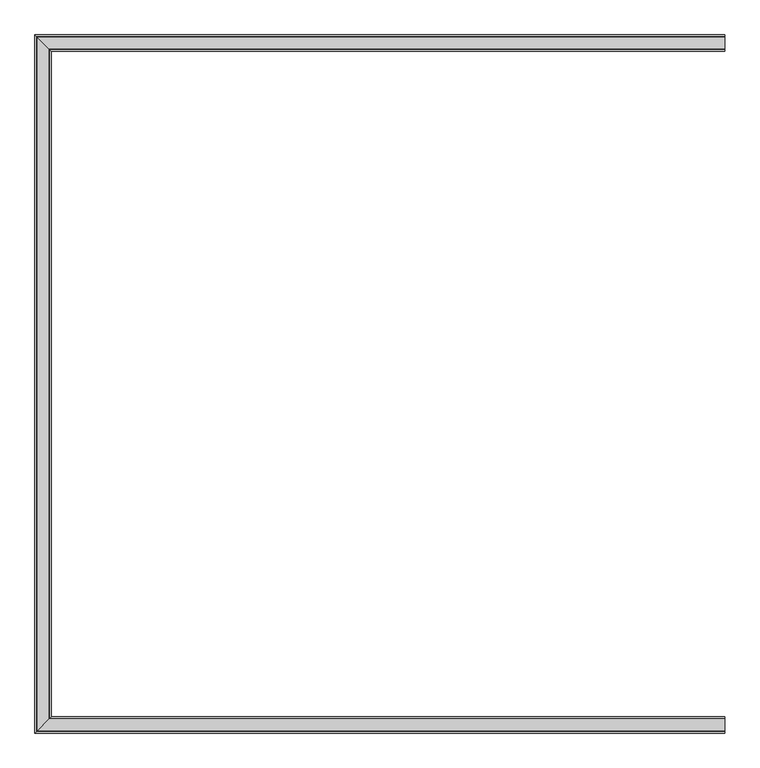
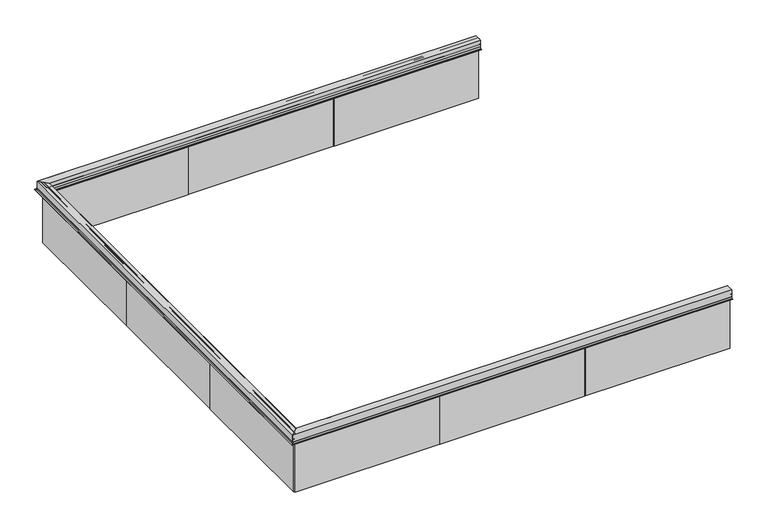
"""IFC4 building model written with IfcOpenShell, lengths in millimetres: railing geometry, Railing - VIVA Railings - Smoke Baffle System - Insert Mount with Surface Trim."""

from ifc_helpers import new_model, si_unit, frame, origin, place, context, project, spatial, polyline, circle_curve, ellipse_curve, outline, extrude, source, transform, mapped, element, save
from ifc_brep_helpers import plane_surface, cylinder_surface, advanced_brep


def railing_280a7c18(model_context):
    return source(origin(), model_context, "Body", "SolidModel", [
        advanced_brep(
        [(4299.0565718, 8380.1322749, -59.6811892), (4299.0565718, 8378.9090912, -59.6811892), (4299.0565718, 8378.9090912, -76.1890625), (4299.0565718, 8368.0590912, -76.1890625), (4299.0565718, 8368.0590912, -77.5890625), (4299.0565718, 8402.9090912, -77.5890625), (4299.0565718, 8402.9090912, -76.1890625), (4299.0565718, 8383.4090912, -76.1890625), (4299.0565718, 8383.4090912, -59.6811892), (4299.0565718, 8382.1313489, -59.6811892), (4299.0565718, 8382.1313489, -39.4359819), (4299.0565718, 8382.1313489, -35.6245431), (4299.0565718, 8382.1313489, -1.9881366), (4299.0565718, 8399.1322749, -1.9881366), (4299.0565718, 8399.1322749, -13.7409517), (4299.0565718, 8409.3629707, -11.8350452), (4299.0565718, 8409.3629707, -1.9881366), (4299.0565718, 8411.8822749, -1.9881366), (4299.0565718, 8414.401579, -1.9881366), (4299.0565718, 8414.401579, -11.8350452), (4299.0565718, 8424.6322749, -13.7409517), (4299.0565718, 8424.6322749, -1.9881366), (4299.0565718, 8441.6332008, -1.9881366), (4299.0565718, 8441.6332008, -35.6245431), (4299.0565718, 8441.6332008, -39.4359819), (4299.0565718, 8441.6332008, -59.6811892), (4299.0565718, 8440.3554585, -59.6811892), (4299.0565718, 8440.3554585, -76.1890625), (4299.0565718, 8420.8554585, -76.1890625), (4299.0565718, 8420.8554585, -77.5890625), (4299.0565718, 8455.7054585, -77.5890625), (4299.0565718, 8455.7054585, -76.1890625), (4299.0565718, 8444.8554585, -76.1890625), (4299.0565718, 8444.8554585, -59.6811892), (4299.0565718, 8443.6322749, -59.6811892), (4299.0565718, 8443.6322749, 0.0109375), (4299.0565718, 8380.1322749, 0.0109375), (673.2065718, 8380.1322749, -59.6811892), (673.2065718, 8380.1322749, 0.0109375), (609.7065718, 8443.6322749, 0.0109375), (609.7065718, 8443.6322749, -59.6811892), (608.4833882, 8444.8554585, -59.6811892), (608.4833882, 8444.8554585, -76.1890625), (597.6333882, 8455.7054585, -76.1890625), (597.6333882, 8455.7054585, -77.5890625), (632.4833882, 8420.8554585, -77.5890625), (632.4833882, 8420.8554585, -76.1890625), (612.9833882, 8440.3554585, -76.1890625), (612.9833882, 8440.3554585, -59.6811892), (611.7056459, 8441.6332008, -59.6811892), (611.7056459, 8441.6332008, -39.4359819), (611.7056459, 8441.6332008, -35.6245431), (611.7056459, 8441.6332008, -1.9881366), (628.7065718, 8424.6322749, -1.9881366), (628.7065718, 8424.6322749, -13.7409517), (638.9372677, 8414.401579, -11.8350452), (638.9372677, 8414.401579, -1.9881366), (641.4565718, 8411.8822749, -1.9881366), (643.975876, 8409.3629707, -1.9881366), (643.975876, 8409.3629707, -11.8350452), (654.2065718, 8399.1322749, -13.7409517), (654.2065718, 8399.1322749, -1.9881366), (671.2074978, 8382.1313489, -1.9881366), (671.2074978, 8382.1313489, -35.6245431), (671.2074978, 8382.1313489, -39.4359819), (671.2074978, 8382.1313489, -59.6811892), (669.9297555, 8383.4090912, -59.6811892), (669.9297555, 8383.4090912, -76.1890625), (650.4297555, 8402.9090912, -76.1890625), (650.4297555, 8402.9090912, -77.5890625), (685.2797555, 8368.0590912, -77.5890625), (685.2797555, 8368.0590912, -76.1890625), (674.4297555, 8378.9090912, -76.1890625), (674.4297555, 8378.9090912, -59.6811892)],
        [
            (0, 1),
            (1, 2),
            (2, 3),
            (3, 4),
            (4, 5),
            (5, 6),
            (6, 7),
            (7, 8),
            (8, 9),
            (9, 10),
            (10, 11, circle_curve(frame((4299.0565718, 8385.1335765, -37.5302625), z_axis=(1.0, 0.0, 0.0), x_axis=(0.0, -0.6169199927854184, -0.7870258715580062)), 3.5560001)),
            (11, 12),
            (12, 13),
            (13, 14),
            (14, 15),
            (15, 16),
            (16, 17),
            (17, 18),
            (18, 19),
            (19, 20),
            (20, 21),
            (21, 22),
            (22, 23),
            (23, 24, circle_curve(frame((4299.0565718, 8438.6309732, -37.5302625), z_axis=(1.0, 0.0, 0.0), x_axis=(0.0, 0.6169199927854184, -0.7870258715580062)), 3.5560001)),
            (24, 25),
            (25, 26),
            (26, 27),
            (27, 28),
            (28, 29),
            (29, 30),
            (30, 31),
            (31, 32),
            (32, 33),
            (33, 34),
            (34, 35),
            (35, 36),
            (36, 0),
            (37, 38),
            (38, 39),
            (39, 40),
            (40, 41),
            (41, 42),
            (42, 43),
            (43, 44),
            (44, 45),
            (45, 46),
            (46, 47),
            (47, 48),
            (48, 49),
            (49, 50),
            (50, 51, ellipse_curve(frame((614.7078735, 8438.6309732, -37.5302625), z_axis=(-0.7071067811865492, -0.7071067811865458, 0.0), x_axis=(0.7071067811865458, -0.7071067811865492, 0.0)), 5.0289436, 3.5560001)),
            (51, 52),
            (52, 53),
            (53, 54),
            (54, 55),
            (55, 56),
            (56, 57),
            (57, 58),
            (58, 59),
            (59, 60),
            (60, 61),
            (61, 62),
            (62, 63),
            (63, 64, ellipse_curve(frame((668.2052702, 8385.1335765, -37.5302625), z_axis=(-0.7071067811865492, -0.7071067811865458, 0.0), x_axis=(0.7071067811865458, -0.7071067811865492, 0.0)), 5.0289436, 3.5560001)),
            (64, 65),
            (65, 66),
            (66, 67),
            (67, 68),
            (68, 69),
            (69, 70),
            (70, 71),
            (71, 72),
            (72, 73),
            (73, 37),
            (1, 73),
            (72, 2),
            (71, 3),
            (0, 37),
            (4, 70),
            (69, 5),
            (11, 63),
            (62, 12),
            (68, 6),
            (67, 7),
            (66, 8),
            (65, 9),
            (10, 64),
            (13, 61),
            (60, 14),
            (59, 15),
            (23, 51),
            (50, 24),
            (49, 25),
            (48, 26),
            (27, 47),
            (46, 28),
            (31, 43),
            (42, 32),
            (45, 29),
            (22, 52),
            (44, 30),
            (33, 41),
            (40, 34),
            (21, 53),
            (16, 58),
            (57, 17),
            (39, 35),
            (20, 54),
            (36, 38),
            (56, 18),
            (55, 19),
        ],
        [
            plane_surface(frame((4299.0565718, 8411.8822749, -77.5890625), z_axis=(1.0, 0.0, 0.0), x_axis=(0.0, -1.0, 0.0))),
            plane_surface(frame((641.4565718, 8411.8822749, -77.5890625), z_axis=(-0.7071067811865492, -0.7071067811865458, 0.0), x_axis=(0.7071067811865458, -0.7071067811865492, 0.0))),
            plane_surface(frame((4299.0565718, 8378.9090912, -59.6811892), z_axis=(0.0, -1.0, 0.0), x_axis=(-1.0, 0.0, 0.0))),
            plane_surface(frame((4299.0565718, 8378.9090912, -76.1890625), z_axis=(0.0, 0.0, 1.0), x_axis=(-1.0, 0.0, 0.0))),
            plane_surface(frame((4299.0565718, 8380.1322749, -59.6811892), z_axis=(0.0, 0.0, 1.0), x_axis=(-1.0, 0.0, 0.0))),
            plane_surface(frame((4299.0565718, 8368.0590912, -77.5890625), z_axis=(0.0, 0.0, -1.0), x_axis=(-1.0, 0.0, 0.0))),
            plane_surface(frame((4299.0565718, 8382.1313489, -35.6245431), z_axis=(0.0, 1.0, 0.0), x_axis=(-1.0, 0.0, 0.0))),
            plane_surface(frame((4299.0565718, 8402.9090912, -77.5890625), z_axis=(0.0, 1.0, 0.0), x_axis=(-1.0, 0.0, 0.0))),
            plane_surface(frame((4299.0565718, 8402.9090912, -76.1890625), z_axis=(0.0, 0.0, 1.0), x_axis=(-1.0, 0.0, 0.0))),
            plane_surface(frame((4299.0565718, 8383.4090912, -76.1890625), z_axis=(0.0, 1.0, 0.0), x_axis=(-1.0, 0.0, 0.0))),
            plane_surface(frame((4299.0565718, 8383.4090912, -59.6811892), z_axis=(0.0, 0.0, 1.0), x_axis=(-1.0, 0.0, 0.0))),
            plane_surface(frame((4299.0565718, 8368.0590912, -76.1890625), z_axis=(0.0, -1.0, 0.0), x_axis=(-1.0, 0.0, 0.0))),
            cylinder_surface(frame((4299.0565718, 8385.1335765, -37.5302625), z_axis=(1.0, 0.0, 0.0), x_axis=(0.0, -0.6169199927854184, -0.7870258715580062)), 3.5560001),
            plane_surface(frame((4299.0565718, 8382.1313489, -59.6811892), z_axis=(0.0, 1.0, 2.3375906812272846e-12), x_axis=(-1.0, 0.0, 0.0))),
            plane_surface(frame((4299.0565718, 8399.1322749, -1.9881366), z_axis=(0.0, -1.0, 0.0), x_axis=(-1.0, 0.0, 0.0))),
            plane_surface(frame((4299.0565718, 8382.1313489, -1.9881366), z_axis=(0.0, 0.0, -1.0), x_axis=(-1.0, 0.0, 0.0))),
            plane_surface(frame((4299.0565718, 8399.1322749, -13.7409517), z_axis=(0.0, 0.1831420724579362, -0.9830864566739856), x_axis=(-1.0, 0.0, 0.0))),
            cylinder_surface(frame((4299.0565718, 8438.6309732, -37.5302625), z_axis=(1.0, 0.0, 0.0), x_axis=(0.0, 0.6169199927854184, -0.7870258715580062)), 3.5560001),
            plane_surface(frame((4299.0565718, 8441.6332008, -39.4359819), z_axis=(0.0, -1.0, 2.3375906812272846e-12), x_axis=(-1.0, 0.0, 0.0))),
            plane_surface(frame((4299.0565718, 8441.6332008, -59.6811892), z_axis=(0.0, 0.0, 1.0), x_axis=(-1.0, 0.0, 0.0))),
            plane_surface(frame((4299.0565718, 8440.3554585, -76.1890625), z_axis=(0.0, 0.0, 1.0), x_axis=(-1.0, 0.0, 0.0))),
            plane_surface(frame((4299.0565718, 8440.3554585, -59.6811892), z_axis=(0.0, -1.0, 0.0), x_axis=(-1.0, 0.0, 0.0))),
            plane_surface(frame((4299.0565718, 8455.7054585, -76.1890625), z_axis=(0.0, 0.0, 1.0), x_axis=(-1.0, 0.0, 0.0))),
            plane_surface(frame((4299.0565718, 8420.8554585, -76.1890625), z_axis=(0.0, -1.0, 0.0), x_axis=(-1.0, 0.0, 0.0))),
            plane_surface(frame((4299.0565718, 8441.6332008, -1.9881366), z_axis=(0.0, -1.0, 0.0), x_axis=(-1.0, 0.0, 0.0))),
            plane_surface(frame((4299.0565718, 8420.8554585, -77.5890625), z_axis=(0.0, 0.0, -1.0), x_axis=(-1.0, 0.0, 0.0))),
            plane_surface(frame((4299.0565718, 8455.7054585, -77.5890625), z_axis=(0.0, 1.0, 0.0), x_axis=(-1.0, 0.0, 0.0))),
            plane_surface(frame((4299.0565718, 8444.8554585, -59.6811892), z_axis=(0.0, 0.0, 1.0), x_axis=(-1.0, 0.0, 0.0))),
            plane_surface(frame((4299.0565718, 8444.8554585, -76.1890625), z_axis=(0.0, 1.0, 0.0), x_axis=(-1.0, 0.0, 0.0))),
            plane_surface(frame((4299.0565718, 8424.6322749, -1.9881366), z_axis=(0.0, 0.0, -1.0), x_axis=(-1.0, 0.0, 0.0))),
            plane_surface(frame((4299.0565718, 8409.3629707, -1.9881366), z_axis=(0.0, 0.0, -1.0), x_axis=(-1.0, 0.0, 0.0))),
            plane_surface(frame((4299.0565718, 8443.6322749, -59.6811892), z_axis=(0.0, 1.0, 0.0), x_axis=(-1.0, 0.0, 0.0))),
            plane_surface(frame((4299.0565718, 8409.3629707, -11.8350452), z_axis=(0.0, 1.0, 0.0), x_axis=(-1.0, 0.0, 0.0))),
            plane_surface(frame((4299.0565718, 8424.6322749, -13.7409517), z_axis=(0.0, 1.0, 0.0), x_axis=(-1.0, 0.0, 0.0))),
            plane_surface(frame((4299.0565718, 8380.1322749, 0.0109375), z_axis=(0.0, -1.0, 0.0), x_axis=(-1.0, 0.0, 0.0))),
            plane_surface(frame((4299.0565718, 8411.8822749, -1.9881366), z_axis=(0.0, 0.0, -1.0), x_axis=(-1.0, 0.0, 0.0))),
            plane_surface(frame((4299.0565718, 8414.401579, -1.9881366), z_axis=(0.0, -1.0, 0.0), x_axis=(-1.0, 0.0, 0.0))),
            plane_surface(frame((4299.0565718, 8414.401579, -11.8350452), z_axis=(0.0, -0.1831420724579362, -0.9830864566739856), x_axis=(-1.0, 0.0, 0.0))),
            plane_surface(frame((4299.0565718, 8443.6322749, 0.0109375), z_axis=(0.0, 0.0, 1.0), x_axis=(-1.0, 0.0, 0.0))),
        ],
        [
            (0, [[1, 2, 3, 4, 5, 6, 7, 8, 9, 10, 11, 12, 13, 14, 15, 16, 17, 18, 19, 20, 21, 22, 23, 24, 25, 26, 27, 28, 29, 30, 31, 32, 33, 34, 35, 36, 37]]),
            (1, [[38, 39, 40, 41, 42, 43, 44, 45, 46, 47, 48, 49, 50, 51, 52, 53, 54, 55, 56, 57, 58, 59, 60, 61, 62, 63, 64, 65, 66, 67, 68, 69, 70, 71, 72, 73, 74]]),
            (2, [[-2, 75, -73, 76]]),
            (3, [[-3, -76, -72, 77]]),
            (4, [[-1, 78, -74, -75]]),
            (5, [[-5, 79, -70, 80]]),
            (6, [[-12, 81, -63, 82]]),
            (7, [[-6, -80, -69, 83]]),
            (8, [[-7, -83, -68, 84]]),
            (9, [[-8, -84, -67, 85]]),
            (10, [[-9, -85, -66, 86]]),
            (11, [[-4, -77, -71, -79]]),
            (12, [[-11, 87, -64, -81]]),
            (13, [[-10, -86, -65, -87]]),
            (14, [[-14, 88, -61, 89]]),
            (15, [[-13, -82, -62, -88]]),
            (16, [[-15, -89, -60, 90]]),
            (17, [[-24, 91, -51, 92]]),
            (18, [[-25, -92, -50, 93]]),
            (19, [[-26, -93, -49, 94]]),
            (20, [[-28, 95, -47, 96]]),
            (21, [[-27, -94, -48, -95]]),
            (22, [[-32, 97, -43, 98]]),
            (23, [[-29, -96, -46, 99]]),
            (24, [[-23, 100, -52, -91]]),
            (25, [[-30, -99, -45, 101]]),
            (26, [[-31, -101, -44, -97]]),
            (27, [[-34, 102, -41, 103]]),
            (28, [[-33, -98, -42, -102]]),
            (29, [[-22, 104, -53, -100]]),
            (30, [[-17, 105, -58, 106]]),
            (31, [[-35, -103, -40, 107]]),
            (32, [[-16, -90, -59, -105]]),
            (33, [[-21, 108, -54, -104]]),
            (34, [[-37, 109, -38, -78]]),
            (35, [[-18, -106, -57, 110]]),
            (36, [[-19, -110, -56, 111]]),
            (37, [[-20, -111, -55, -108]]),
            (38, [[-36, -107, -39, -109]]),
        ],
    ),
        advanced_brep(
        [(673.2065718, 8380.1322749, -59.6811892), (674.4297555, 8378.9090912, -59.6811892), (674.4297555, 8378.9090912, -76.1890625), (685.2797555, 8368.0590912, -76.1890625), (685.2797555, 8368.0590912, -77.5890625), (650.4297555, 8402.9090912, -77.5890625), (650.4297555, 8402.9090912, -76.1890625), (669.9297555, 8383.4090912, -76.1890625), (669.9297555, 8383.4090912, -59.6811892), (671.2074978, 8382.1313489, -59.6811892), (671.2074978, 8382.1313489, -39.4359819), (671.2074978, 8382.1313489, -35.6245431), (671.2074978, 8382.1313489, -1.9881366), (654.2065718, 8399.1322749, -1.9881366), (654.2065718, 8399.1322749, -13.7409517), (643.975876, 8409.3629707, -11.8350452), (643.975876, 8409.3629707, -1.9881366), (641.4565718, 8411.8822749, -1.9881366), (638.9372677, 8414.401579, -1.9881366), (638.9372677, 8414.401579, -11.8350452), (628.7065718, 8424.6322749, -13.7409517), (628.7065718, 8424.6322749, -1.9881366), (611.7056459, 8441.6332008, -1.9881366), (611.7056459, 8441.6332008, -35.6245431), (611.7056459, 8441.6332008, -39.4359819), (611.7056459, 8441.6332008, -59.6811892), (612.9833882, 8440.3554585, -59.6811892), (612.9833882, 8440.3554585, -76.1890625), (632.4833882, 8420.8554585, -76.1890625), (632.4833882, 8420.8554585, -77.5890625), (597.6333882, 8455.7054585, -77.5890625), (597.6333882, 8455.7054585, -76.1890625), (608.4833882, 8444.8554585, -76.1890625), (608.4833882, 8444.8554585, -59.6811892), (609.7065718, 8443.6322749, -59.6811892), (609.7065718, 8443.6322749, 0.0109375), (673.2065718, 8380.1322749, 0.0109375), (673.2065718, 4786.0322749, -59.6811892), (673.2065718, 4786.0322749, 0.0109375), (609.7065718, 4722.5322749, 0.0109375), (609.7065718, 4722.5322749, -59.6811892), (608.4833882, 4721.3090912, -59.6811892), (608.4833882, 4721.3090912, -76.1890625), (597.6333882, 4710.4590912, -76.1890625), (597.6333882, 4710.4590912, -77.5890625), (632.4833882, 4745.3090912, -77.5890625), (632.4833882, 4745.3090912, -76.1890625), (612.9833882, 4725.8090912, -76.1890625), (612.9833882, 4725.8090912, -59.6811892), (611.7056459, 4724.5313489, -59.6811892), (611.7056459, 4724.5313489, -39.4359819), (611.7056459, 4724.5313489, -35.6245431), (611.7056459, 4724.5313489, -1.9881366), (628.7065718, 4741.5322749, -1.9881366), (628.7065718, 4741.5322749, -13.7409517), (638.9372677, 4751.7629707, -11.8350452), (638.9372677, 4751.7629707, -1.9881366), (641.4565718, 4754.2822749, -1.9881366), (643.975876, 4756.801579, -1.9881366), (643.975876, 4756.801579, -11.8350452), (654.2065718, 4767.0322749, -13.7409517), (654.2065718, 4767.0322749, -1.9881366), (671.2074978, 4784.0332008, -1.9881366), (671.2074978, 4784.0332008, -35.6245431), (671.2074978, 4784.0332008, -39.4359819), (671.2074978, 4784.0332008, -59.6811892), (669.9297555, 4782.7554585, -59.6811892), (669.9297555, 4782.7554585, -76.1890625), (650.4297555, 4763.2554585, -76.1890625), (650.4297555, 4763.2554585, -77.5890625), (685.2797555, 4798.1054585, -77.5890625), (685.2797555, 4798.1054585, -76.1890625), (674.4297555, 4787.2554585, -76.1890625), (674.4297555, 4787.2554585, -59.6811892)],
        [
            (0, 1),
            (1, 2),
            (2, 3),
            (3, 4),
            (4, 5),
            (5, 6),
            (6, 7),
            (7, 8),
            (8, 9),
            (9, 10),
            (10, 11, ellipse_curve(frame((668.2052702, 8385.1335765, -37.5302625), z_axis=(0.7071067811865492, 0.7071067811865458, 0.0), x_axis=(-0.7071067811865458, 0.7071067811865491, 0.0)), 5.0289436, 3.5560001)),
            (11, 12),
            (12, 13),
            (13, 14),
            (14, 15),
            (15, 16),
            (16, 17),
            (17, 18),
            (18, 19),
            (19, 20),
            (20, 21),
            (21, 22),
            (22, 23),
            (23, 24, ellipse_curve(frame((614.7078735, 8438.6309732, -37.5302625), z_axis=(0.7071067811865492, 0.7071067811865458, 0.0), x_axis=(-0.7071067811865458, 0.7071067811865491, 0.0)), 5.0289436, 3.5560001)),
            (24, 25),
            (25, 26),
            (26, 27),
            (27, 28),
            (28, 29),
            (29, 30),
            (30, 31),
            (31, 32),
            (32, 33),
            (33, 34),
            (34, 35),
            (35, 36),
            (36, 0),
            (37, 38),
            (38, 39),
            (39, 40),
            (40, 41),
            (41, 42),
            (42, 43),
            (43, 44),
            (44, 45),
            (45, 46),
            (46, 47),
            (47, 48),
            (48, 49),
            (49, 50),
            (50, 51, ellipse_curve(frame((614.7078735, 4727.5335765, -37.5302625), z_axis=(0.7071067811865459, -0.7071067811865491, 0.0), x_axis=(0.7071067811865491, 0.707106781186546, 0.0)), 5.0289436, 3.5560001)),
            (51, 52),
            (52, 53),
            (53, 54),
            (54, 55),
            (55, 56),
            (56, 57),
            (57, 58),
            (58, 59),
            (59, 60),
            (60, 61),
            (61, 62),
            (62, 63),
            (63, 64, ellipse_curve(frame((668.2052702, 4781.0309732, -37.5302625), z_axis=(0.7071067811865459, -0.7071067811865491, 0.0), x_axis=(0.7071067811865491, 0.707106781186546, 0.0)), 5.0289436, 3.5560001)),
            (64, 65),
            (65, 66),
            (66, 67),
            (67, 68),
            (68, 69),
            (69, 70),
            (70, 71),
            (71, 72),
            (72, 73),
            (73, 37),
            (1, 73),
            (72, 2),
            (71, 3),
            (0, 37),
            (4, 70),
            (69, 5),
            (11, 63),
            (62, 12),
            (68, 6),
            (67, 7),
            (66, 8),
            (65, 9),
            (10, 64),
            (13, 61),
            (60, 14),
            (59, 15),
            (23, 51),
            (50, 24),
            (49, 25),
            (48, 26),
            (27, 47),
            (46, 28),
            (31, 43),
            (42, 32),
            (45, 29),
            (22, 52),
            (44, 30),
            (33, 41),
            (40, 34),
            (21, 53),
            (16, 58),
            (57, 17),
            (39, 35),
            (20, 54),
            (36, 38),
            (56, 18),
            (55, 19),
        ],
        [
            plane_surface(frame((641.4565718, 8411.8822749, -77.5890625), z_axis=(0.7071067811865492, 0.7071067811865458, 0.0), x_axis=(0.7071067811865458, -0.7071067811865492, 0.0))),
            plane_surface(frame((641.4565718, 4754.2822749, -77.5890625), z_axis=(0.7071067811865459, -0.7071067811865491, 0.0), x_axis=(0.7071067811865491, 0.7071067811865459, 0.0))),
            plane_surface(frame((674.4297555, 8378.9090912, -59.6811892), z_axis=(1.0, 0.0, 0.0), x_axis=(0.0, -1.0, 0.0))),
            plane_surface(frame((674.4297555, 8378.9090912, -76.1890625), z_axis=(0.0, 0.0, 1.0), x_axis=(0.0, -1.0, 0.0))),
            plane_surface(frame((673.2065718, 8380.1322749, -59.6811892), z_axis=(0.0, 0.0, 1.0), x_axis=(0.0, -1.0, 0.0))),
            plane_surface(frame((685.2797555, 8368.0590912, -77.5890625), z_axis=(0.0, 0.0, -1.0), x_axis=(0.0, -1.0, 0.0))),
            plane_surface(frame((671.2074978, 8382.1313489, -35.6245431), z_axis=(-1.0, 0.0, 0.0), x_axis=(0.0, -1.0, 0.0))),
            plane_surface(frame((650.4297555, 8402.9090912, -77.5890625), z_axis=(-1.0, 0.0, 0.0), x_axis=(0.0, -1.0, 0.0))),
            plane_surface(frame((650.4297555, 8402.9090912, -76.1890625), z_axis=(0.0, 0.0, 1.0), x_axis=(0.0, -1.0, 0.0))),
            plane_surface(frame((669.9297555, 8383.4090912, -76.1890625), z_axis=(-1.0, 0.0, 0.0), x_axis=(0.0, -1.0, 0.0))),
            plane_surface(frame((669.9297555, 8383.4090912, -59.6811892), z_axis=(0.0, 0.0, 1.0), x_axis=(0.0, -1.0, 0.0))),
            plane_surface(frame((685.2797555, 8368.0590912, -76.1890625), z_axis=(1.0, 0.0, 0.0), x_axis=(0.0, -1.0, 0.0))),
            cylinder_surface(frame((668.2052702, 8411.8822749, -37.5302625), z_axis=(0.0, 1.0, 0.0), x_axis=(0.6169199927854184, 0.0, -0.7870258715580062)), 3.5560001),
            plane_surface(frame((671.2074978, 8382.1313489, -59.6811892), z_axis=(-1.0, 0.0, 2.3375906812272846e-12), x_axis=(0.0, -1.0, 0.0))),
            plane_surface(frame((654.2065718, 8399.1322749, -1.9881366), z_axis=(1.0, 0.0, 0.0), x_axis=(0.0, -1.0, 0.0))),
            plane_surface(frame((671.2074978, 8382.1313489, -1.9881366), z_axis=(0.0, 0.0, -1.0), x_axis=(0.0, -1.0, 0.0))),
            plane_surface(frame((654.2065718, 8399.1322749, -13.7409517), z_axis=(-0.1831420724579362, 0.0, -0.9830864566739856), x_axis=(0.0, -1.0, 0.0))),
            cylinder_surface(frame((614.7078735, 8411.8822749, -37.5302625), z_axis=(0.0, 1.0, 0.0), x_axis=(-0.6169199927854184, 0.0, -0.7870258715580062)), 3.5560001),
            plane_surface(frame((611.7056459, 8441.6332008, -39.4359819), z_axis=(1.0, 0.0, 2.3375906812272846e-12), x_axis=(0.0, -1.0, 0.0))),
            plane_surface(frame((611.7056459, 8441.6332008, -59.6811892), z_axis=(0.0, 0.0, 1.0), x_axis=(0.0, -1.0, 0.0))),
            plane_surface(frame((612.9833882, 8440.3554585, -76.1890625), z_axis=(0.0, 0.0, 1.0), x_axis=(0.0, -1.0, 0.0))),
            plane_surface(frame((612.9833882, 8440.3554585, -59.6811892), z_axis=(1.0, 0.0, 0.0), x_axis=(0.0, -1.0, 0.0))),
            plane_surface(frame((597.6333882, 8455.7054585, -76.1890625), z_axis=(0.0, 0.0, 1.0), x_axis=(0.0, -1.0, 0.0))),
            plane_surface(frame((632.4833882, 8420.8554585, -76.1890625), z_axis=(1.0, 0.0, 0.0), x_axis=(0.0, -1.0, 0.0))),
            plane_surface(frame((611.7056459, 8441.6332008, -1.9881366), z_axis=(1.0, 0.0, 0.0), x_axis=(0.0, -1.0, 0.0))),
            plane_surface(frame((632.4833882, 8420.8554585, -77.5890625), z_axis=(0.0, 0.0, -1.0), x_axis=(0.0, -1.0, 0.0))),
            plane_surface(frame((597.6333882, 8455.7054585, -77.5890625), z_axis=(-1.0, 0.0, 0.0), x_axis=(0.0, -1.0, 0.0))),
            plane_surface(frame((608.4833882, 8444.8554585, -59.6811892), z_axis=(0.0, 0.0, 1.0), x_axis=(0.0, -1.0, 0.0))),
            plane_surface(frame((608.4833882, 8444.8554585, -76.1890625), z_axis=(-1.0, 0.0, 0.0), x_axis=(0.0, -1.0, 0.0))),
            plane_surface(frame((628.7065718, 8424.6322749, -1.9881366), z_axis=(0.0, 0.0, -1.0), x_axis=(0.0, -1.0, 0.0))),
            plane_surface(frame((643.975876, 8409.3629707, -1.9881366), z_axis=(0.0, 0.0, -1.0), x_axis=(0.0, -1.0, 0.0))),
            plane_surface(frame((609.7065718, 8443.6322749, -59.6811892), z_axis=(-1.0, 0.0, 0.0), x_axis=(0.0, -1.0, 0.0))),
            plane_surface(frame((643.975876, 8409.3629707, -11.8350452), z_axis=(-1.0, 0.0, 0.0), x_axis=(0.0, -1.0, 0.0))),
            plane_surface(frame((628.7065718, 8424.6322749, -13.7409517), z_axis=(-1.0, 0.0, 0.0), x_axis=(0.0, -1.0, 0.0))),
            plane_surface(frame((673.2065718, 8380.1322749, 0.0109375), z_axis=(1.0, 0.0, 0.0), x_axis=(0.0, -1.0, 0.0))),
            plane_surface(frame((641.4565718, 8411.8822749, -1.9881366), z_axis=(0.0, 0.0, -1.0), x_axis=(0.0, -1.0, 0.0))),
            plane_surface(frame((638.9372677, 8414.401579, -1.9881366), z_axis=(1.0, 0.0, 0.0), x_axis=(0.0, -1.0, 0.0))),
            plane_surface(frame((638.9372677, 8414.401579, -11.8350452), z_axis=(0.1831420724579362, 0.0, -0.9830864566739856), x_axis=(0.0, -1.0, 0.0))),
            plane_surface(frame((609.7065718, 8443.6322749, 0.0109375), z_axis=(0.0, 0.0, 1.0), x_axis=(0.0, -1.0, 0.0))),
        ],
        [
            (0, [[1, 2, 3, 4, 5, 6, 7, 8, 9, 10, 11, 12, 13, 14, 15, 16, 17, 18, 19, 20, 21, 22, 23, 24, 25, 26, 27, 28, 29, 30, 31, 32, 33, 34, 35, 36, 37]]),
            (1, [[38, 39, 40, 41, 42, 43, 44, 45, 46, 47, 48, 49, 50, 51, 52, 53, 54, 55, 56, 57, 58, 59, 60, 61, 62, 63, 64, 65, 66, 67, 68, 69, 70, 71, 72, 73, 74]]),
            (2, [[-2, 75, -73, 76]]),
            (3, [[-3, -76, -72, 77]]),
            (4, [[-1, 78, -74, -75]]),
            (5, [[-5, 79, -70, 80]]),
            (6, [[-12, 81, -63, 82]]),
            (7, [[-6, -80, -69, 83]]),
            (8, [[-7, -83, -68, 84]]),
            (9, [[-8, -84, -67, 85]]),
            (10, [[-9, -85, -66, 86]]),
            (11, [[-4, -77, -71, -79]]),
            (12, [[-11, 87, -64, -81]]),
            (13, [[-10, -86, -65, -87]]),
            (14, [[-14, 88, -61, 89]]),
            (15, [[-13, -82, -62, -88]]),
            (16, [[-15, -89, -60, 90]]),
            (17, [[-24, 91, -51, 92]]),
            (18, [[-25, -92, -50, 93]]),
            (19, [[-26, -93, -49, 94]]),
            (20, [[-28, 95, -47, 96]]),
            (21, [[-27, -94, -48, -95]]),
            (22, [[-32, 97, -43, 98]]),
            (23, [[-29, -96, -46, 99]]),
            (24, [[-23, 100, -52, -91]]),
            (25, [[-30, -99, -45, 101]]),
            (26, [[-31, -101, -44, -97]]),
            (27, [[-34, 102, -41, 103]]),
            (28, [[-33, -98, -42, -102]]),
            (29, [[-22, 104, -53, -100]]),
            (30, [[-17, 105, -58, 106]]),
            (31, [[-35, -103, -40, 107]]),
            (32, [[-16, -90, -59, -105]]),
            (33, [[-21, 108, -54, -104]]),
            (34, [[-37, 109, -38, -78]]),
            (35, [[-18, -106, -57, 110]]),
            (36, [[-19, -110, -56, 111]]),
            (37, [[-20, -111, -55, -108]]),
            (38, [[-36, -107, -39, -109]]),
        ],
    ),
        advanced_brep(
        [(673.2065718, 4786.0322749, -59.6811892), (674.4297555, 4787.2554585, -59.6811892), (674.4297555, 4787.2554585, -76.1890625), (685.2797555, 4798.1054585, -76.1890625), (685.2797555, 4798.1054585, -77.5890625), (650.4297555, 4763.2554585, -77.5890625), (650.4297555, 4763.2554585, -76.1890625), (669.9297555, 4782.7554585, -76.1890625), (669.9297555, 4782.7554585, -59.6811892), (671.2074978, 4784.0332008, -59.6811892), (671.2074978, 4784.0332008, -39.4359819), (671.2074978, 4784.0332008, -35.6245431), (671.2074978, 4784.0332008, -1.9881366), (654.2065718, 4767.0322749, -1.9881366), (654.2065718, 4767.0322749, -13.7409517), (643.975876, 4756.801579, -11.8350452), (643.975876, 4756.801579, -1.9881366), (641.4565718, 4754.2822749, -1.9881366), (638.9372677, 4751.7629707, -1.9881366), (638.9372677, 4751.7629707, -11.8350452), (628.7065718, 4741.5322749, -13.7409517), (628.7065718, 4741.5322749, -1.9881366), (611.7056459, 4724.5313489, -1.9881366), (611.7056459, 4724.5313489, -35.6245431), (611.7056459, 4724.5313489, -39.4359819), (611.7056459, 4724.5313489, -59.6811892), (612.9833882, 4725.8090912, -59.6811892), (612.9833882, 4725.8090912, -76.1890625), (632.4833882, 4745.3090912, -76.1890625), (632.4833882, 4745.3090912, -77.5890625), (597.6333882, 4710.4590912, -77.5890625), (597.6333882, 4710.4590912, -76.1890625), (608.4833882, 4721.3090912, -76.1890625), (608.4833882, 4721.3090912, -59.6811892), (609.7065718, 4722.5322749, -59.6811892), (609.7065718, 4722.5322749, 0.0109375), (673.2065718, 4786.0322749, 0.0109375), (4299.0565718, 4786.0322749, -59.6811892), (4299.0565718, 4786.0322749, 0.0109375), (4299.0565718, 4722.5322749, 0.0109375), (4299.0565718, 4722.5322749, -59.6811892), (4299.0565718, 4721.3090912, -59.6811892), (4299.0565718, 4721.3090912, -76.1890625), (4299.0565718, 4710.4590912, -76.1890625), (4299.0565718, 4710.4590912, -77.5890625), (4299.0565718, 4745.3090912, -77.5890625), (4299.0565718, 4745.3090912, -76.1890625), (4299.0565718, 4725.8090912, -76.1890625), (4299.0565718, 4725.8090912, -59.6811892), (4299.0565718, 4724.5313489, -59.6811892), (4299.0565718, 4724.5313489, -39.4359819), (4299.0565718, 4724.5313489, -35.6245431), (4299.0565718, 4724.5313489, -1.9881366), (4299.0565718, 4741.5322749, -1.9881366), (4299.0565718, 4741.5322749, -13.7409517), (4299.0565718, 4751.7629707, -11.8350452), (4299.0565718, 4751.7629707, -1.9881366), (4299.0565718, 4754.2822749, -1.9881366), (4299.0565718, 4756.801579, -1.9881366), (4299.0565718, 4756.801579, -11.8350452), (4299.0565718, 4767.0322749, -13.7409517), (4299.0565718, 4767.0322749, -1.9881366), (4299.0565718, 4784.0332008, -1.9881366), (4299.0565718, 4784.0332008, -35.6245431), (4299.0565718, 4784.0332008, -39.4359819), (4299.0565718, 4784.0332008, -59.6811892), (4299.0565718, 4782.7554585, -59.6811892), (4299.0565718, 4782.7554585, -76.1890625), (4299.0565718, 4763.2554585, -76.1890625), (4299.0565718, 4763.2554585, -77.5890625), (4299.0565718, 4798.1054585, -77.5890625), (4299.0565718, 4798.1054585, -76.1890625), (4299.0565718, 4787.2554585, -76.1890625), (4299.0565718, 4787.2554585, -59.6811892)],
        [
            (0, 1),
            (1, 2),
            (2, 3),
            (3, 4),
            (4, 5),
            (5, 6),
            (6, 7),
            (7, 8),
            (8, 9),
            (9, 10),
            (10, 11, ellipse_curve(frame((668.2052702, 4781.0309732, -37.5302625), z_axis=(-0.7071067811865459, 0.7071067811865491, 0.0), x_axis=(-0.707106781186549, -0.7071067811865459, 0.0)), 5.0289436, 3.5560001)),
            (11, 12),
            (12, 13),
            (13, 14),
            (14, 15),
            (15, 16),
            (16, 17),
            (17, 18),
            (18, 19),
            (19, 20),
            (20, 21),
            (21, 22),
            (22, 23),
            (23, 24, ellipse_curve(frame((614.7078735, 4727.5335765, -37.5302625), z_axis=(-0.7071067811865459, 0.7071067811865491, 0.0), x_axis=(-0.707106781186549, -0.7071067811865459, 0.0)), 5.0289436, 3.5560001)),
            (24, 25),
            (25, 26),
            (26, 27),
            (27, 28),
            (28, 29),
            (29, 30),
            (30, 31),
            (31, 32),
            (32, 33),
            (33, 34),
            (34, 35),
            (35, 36),
            (36, 0),
            (37, 38),
            (38, 39),
            (39, 40),
            (40, 41),
            (41, 42),
            (42, 43),
            (43, 44),
            (44, 45),
            (45, 46),
            (46, 47),
            (47, 48),
            (48, 49),
            (49, 50),
            (50, 51, circle_curve(frame((4299.0565718, 4727.5335765, -37.5302625), z_axis=(1.0, 0.0, 0.0), x_axis=(0.0, -0.6169199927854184, -0.7870258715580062)), 3.5560001)),
            (51, 52),
            (52, 53),
            (53, 54),
            (54, 55),
            (55, 56),
            (56, 57),
            (57, 58),
            (58, 59),
            (59, 60),
            (60, 61),
            (61, 62),
            (62, 63),
            (63, 64, circle_curve(frame((4299.0565718, 4781.0309732, -37.5302625), z_axis=(1.0, 0.0, 0.0), x_axis=(0.0, 0.6169199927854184, -0.7870258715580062)), 3.5560001)),
            (64, 65),
            (65, 66),
            (66, 67),
            (67, 68),
            (68, 69),
            (69, 70),
            (70, 71),
            (71, 72),
            (72, 73),
            (73, 37),
            (1, 73),
            (72, 2),
            (71, 3),
            (0, 37),
            (4, 70),
            (69, 5),
            (11, 63),
            (62, 12),
            (68, 6),
            (67, 7),
            (66, 8),
            (65, 9),
            (10, 64),
            (13, 61),
            (60, 14),
            (59, 15),
            (23, 51),
            (50, 24),
            (49, 25),
            (48, 26),
            (27, 47),
            (46, 28),
            (31, 43),
            (42, 32),
            (45, 29),
            (22, 52),
            (44, 30),
            (33, 41),
            (40, 34),
            (21, 53),
            (16, 58),
            (57, 17),
            (39, 35),
            (20, 54),
            (36, 38),
            (56, 18),
            (55, 19),
        ],
        [
            plane_surface(frame((641.4565718, 4754.2822749, -77.5890625), z_axis=(-0.7071067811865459, 0.7071067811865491, 0.0), x_axis=(0.7071067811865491, 0.7071067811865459, 0.0))),
            plane_surface(frame((4299.0565718, 4754.2822749, -77.5890625), z_axis=(1.0, 0.0, 0.0), x_axis=(0.0, 1.0, 0.0))),
            plane_surface(frame((674.4297555, 4787.2554585, -59.6811892), z_axis=(0.0, 1.0, 0.0), x_axis=(1.0, 0.0, 0.0))),
            plane_surface(frame((674.4297555, 4787.2554585, -76.1890625), z_axis=(0.0, 0.0, 1.0), x_axis=(1.0, 0.0, 0.0))),
            plane_surface(frame((673.2065718, 4786.0322749, -59.6811892), z_axis=(0.0, 0.0, 1.0), x_axis=(1.0, 0.0, 0.0))),
            plane_surface(frame((685.2797555, 4798.1054585, -77.5890625), z_axis=(0.0, 0.0, -1.0), x_axis=(1.0, 0.0, 0.0))),
            plane_surface(frame((671.2074978, 4784.0332008, -35.6245431), z_axis=(0.0, -1.0, 0.0), x_axis=(1.0, 0.0, 0.0))),
            plane_surface(frame((650.4297555, 4763.2554585, -77.5890625), z_axis=(0.0, -1.0, 0.0), x_axis=(1.0, 0.0, 0.0))),
            plane_surface(frame((650.4297555, 4763.2554585, -76.1890625), z_axis=(0.0, 0.0, 1.0), x_axis=(1.0, 0.0, 0.0))),
            plane_surface(frame((669.9297555, 4782.7554585, -76.1890625), z_axis=(0.0, -1.0, 0.0), x_axis=(1.0, 0.0, 0.0))),
            plane_surface(frame((669.9297555, 4782.7554585, -59.6811892), z_axis=(0.0, 0.0, 1.0), x_axis=(1.0, 0.0, 0.0))),
            plane_surface(frame((685.2797555, 4798.1054585, -76.1890625), z_axis=(0.0, 1.0, 0.0), x_axis=(1.0, 0.0, 0.0))),
            cylinder_surface(frame((641.4565718, 4781.0309732, -37.5302625), z_axis=(-1.0, 0.0, 0.0), x_axis=(0.0, 0.6169199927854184, -0.7870258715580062)), 3.5560001),
            plane_surface(frame((671.2074978, 4784.0332008, -59.6811892), z_axis=(0.0, -1.0, 2.3375906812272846e-12), x_axis=(1.0, 0.0, 0.0))),
            plane_surface(frame((654.2065718, 4767.0322749, -1.9881366), z_axis=(0.0, 1.0, 0.0), x_axis=(1.0, 0.0, 0.0))),
            plane_surface(frame((671.2074978, 4784.0332008, -1.9881366), z_axis=(0.0, 0.0, -1.0), x_axis=(1.0, 0.0, 0.0))),
            plane_surface(frame((654.2065718, 4767.0322749, -13.7409517), z_axis=(0.0, -0.1831420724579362, -0.9830864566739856), x_axis=(1.0, 0.0, 0.0))),
            cylinder_surface(frame((641.4565718, 4727.5335765, -37.5302625), z_axis=(-1.0, 0.0, 0.0), x_axis=(0.0, -0.6169199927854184, -0.7870258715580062)), 3.5560001),
            plane_surface(frame((611.7056459, 4724.5313489, -39.4359819), z_axis=(0.0, 1.0, 2.3375906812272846e-12), x_axis=(1.0, 0.0, 0.0))),
            plane_surface(frame((611.7056459, 4724.5313489, -59.6811892), z_axis=(0.0, 0.0, 1.0), x_axis=(1.0, 0.0, 0.0))),
            plane_surface(frame((612.9833882, 4725.8090912, -76.1890625), z_axis=(0.0, 0.0, 1.0), x_axis=(1.0, 0.0, 0.0))),
            plane_surface(frame((612.9833882, 4725.8090912, -59.6811892), z_axis=(0.0, 1.0, 0.0), x_axis=(1.0, 0.0, 0.0))),
            plane_surface(frame((597.6333882, 4710.4590912, -76.1890625), z_axis=(0.0, 0.0, 1.0), x_axis=(1.0, 0.0, 0.0))),
            plane_surface(frame((632.4833882, 4745.3090912, -76.1890625), z_axis=(0.0, 1.0, 0.0), x_axis=(1.0, 0.0, 0.0))),
            plane_surface(frame((611.7056459, 4724.5313489, -1.9881366), z_axis=(0.0, 1.0, 0.0), x_axis=(1.0, 0.0, 0.0))),
            plane_surface(frame((632.4833882, 4745.3090912, -77.5890625), z_axis=(0.0, 0.0, -1.0), x_axis=(1.0, 0.0, 0.0))),
            plane_surface(frame((597.6333882, 4710.4590912, -77.5890625), z_axis=(0.0, -1.0, 0.0), x_axis=(1.0, 0.0, 0.0))),
            plane_surface(frame((608.4833882, 4721.3090912, -59.6811892), z_axis=(0.0, 0.0, 1.0), x_axis=(1.0, 0.0, 0.0))),
            plane_surface(frame((608.4833882, 4721.3090912, -76.1890625), z_axis=(0.0, -1.0, 0.0), x_axis=(1.0, 0.0, 0.0))),
            plane_surface(frame((628.7065718, 4741.5322749, -1.9881366), z_axis=(0.0, 0.0, -1.0), x_axis=(1.0, 0.0, 0.0))),
            plane_surface(frame((643.975876, 4756.801579, -1.9881366), z_axis=(0.0, 0.0, -1.0), x_axis=(1.0, 0.0, 0.0))),
            plane_surface(frame((609.7065718, 4722.5322749, -59.6811892), z_axis=(0.0, -1.0, 0.0), x_axis=(1.0, 0.0, 0.0))),
            plane_surface(frame((643.975876, 4756.801579, -11.8350452), z_axis=(0.0, -1.0, 0.0), x_axis=(1.0, 0.0, 0.0))),
            plane_surface(frame((628.7065718, 4741.5322749, -13.7409517), z_axis=(0.0, -1.0, 0.0), x_axis=(1.0, 0.0, 0.0))),
            plane_surface(frame((673.2065718, 4786.0322749, 0.0109375), z_axis=(0.0, 1.0, 0.0), x_axis=(1.0, 0.0, 0.0))),
            plane_surface(frame((641.4565718, 4754.2822749, -1.9881366), z_axis=(0.0, 0.0, -1.0), x_axis=(1.0, 0.0, 0.0))),
            plane_surface(frame((638.9372677, 4751.7629707, -1.9881366), z_axis=(0.0, 1.0, 0.0), x_axis=(1.0, 0.0, 0.0))),
            plane_surface(frame((638.9372677, 4751.7629707, -11.8350452), z_axis=(0.0, 0.1831420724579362, -0.9830864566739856), x_axis=(1.0, 0.0, 0.0))),
            plane_surface(frame((609.7065718, 4722.5322749, 0.0109375), z_axis=(0.0, 0.0, 1.0), x_axis=(1.0, 0.0, 0.0))),
        ],
        [
            (0, [[1, 2, 3, 4, 5, 6, 7, 8, 9, 10, 11, 12, 13, 14, 15, 16, 17, 18, 19, 20, 21, 22, 23, 24, 25, 26, 27, 28, 29, 30, 31, 32, 33, 34, 35, 36, 37]]),
            (1, [[38, 39, 40, 41, 42, 43, 44, 45, 46, 47, 48, 49, 50, 51, 52, 53, 54, 55, 56, 57, 58, 59, 60, 61, 62, 63, 64, 65, 66, 67, 68, 69, 70, 71, 72, 73, 74]]),
            (2, [[-2, 75, -73, 76]]),
            (3, [[-3, -76, -72, 77]]),
            (4, [[-1, 78, -74, -75]]),
            (5, [[-5, 79, -70, 80]]),
            (6, [[-12, 81, -63, 82]]),
            (7, [[-6, -80, -69, 83]]),
            (8, [[-7, -83, -68, 84]]),
            (9, [[-8, -84, -67, 85]]),
            (10, [[-9, -85, -66, 86]]),
            (11, [[-4, -77, -71, -79]]),
            (12, [[-11, 87, -64, -81]]),
            (13, [[-10, -86, -65, -87]]),
            (14, [[-14, 88, -61, 89]]),
            (15, [[-13, -82, -62, -88]]),
            (16, [[-15, -89, -60, 90]]),
            (17, [[-24, 91, -51, 92]]),
            (18, [[-25, -92, -50, 93]]),
            (19, [[-26, -93, -49, 94]]),
            (20, [[-28, 95, -47, 96]]),
            (21, [[-27, -94, -48, -95]]),
            (22, [[-32, 97, -43, 98]]),
            (23, [[-29, -96, -46, 99]]),
            (24, [[-23, 100, -52, -91]]),
            (25, [[-30, -99, -45, 101]]),
            (26, [[-31, -101, -44, -97]]),
            (27, [[-34, 102, -41, 103]]),
            (28, [[-33, -98, -42, -102]]),
            (29, [[-22, 104, -53, -100]]),
            (30, [[-17, 105, -58, 106]]),
            (31, [[-35, -103, -40, 107]]),
            (32, [[-16, -90, -59, -105]]),
            (33, [[-21, 108, -54, -104]]),
            (34, [[-37, 109, -38, -78]]),
            (35, [[-18, -106, -57, 110]]),
            (36, [[-19, -110, -56, 111]]),
            (37, [[-20, -111, -55, -108]]),
            (38, [[-36, -107, -39, -109]]),
        ],
    ),
        extrude(outline(polyline([(3083.3663831, 4759.0447749), (4296.2646184, 4759.0447749), (4296.2646184, 4749.5197749), (3083.3663831, 4749.5197749), (3083.3663831, 4759.0447749)])), frame((0.0, 0.0, -533.003125), z_axis=(0.0, 0.0, 1.0), x_axis=(1.0, 0.0, 0.0)), (0.0, 0.0, 1.0), 497.8796875),
        extrude(outline(polyline([(1864.1663831, 4759.0447749), (3077.0646184, 4759.0447749), (3077.0646184, 4749.5197749), (1864.1663831, 4749.5197749), (1864.1663831, 4759.0447749)])), frame((0.0, 0.0, -533.003125), z_axis=(0.0, 0.0, 1.0), x_axis=(1.0, 0.0, 0.0)), (0.0, 0.0, 1.0), 497.8796875),
        extrude(outline(polyline([(644.9663831, 4759.0447749), (1857.8646184, 4759.0447749), (1857.8646184, 4749.5197749), (644.9663831, 4749.5197749), (644.9663831, 4759.0447749)])), frame((0.0, 0.0, -533.003125), z_axis=(0.0, 0.0, 1.0), x_axis=(1.0, 0.0, 0.0)), (0.0, 0.0, 1.0), 497.8796875),
        extrude(outline(polyline([(646.2190718, 5969.9724636), (646.2190718, 4757.0742283), (636.6940718, 4757.0742283), (636.6940718, 5969.9724636), (646.2190718, 5969.9724636)])), frame((0.0, 0.0, -533.003125), z_axis=(0.0, 0.0, 1.0), x_axis=(1.0, 0.0, 0.0)), (0.0, 0.0, 1.0), 497.8796875),
        extrude(outline(polyline([(646.2190718, 7189.1724636), (646.2190718, 5976.2742283), (636.6940718, 5976.2742283), (636.6940718, 7189.1724636), (646.2190718, 7189.1724636)])), frame((0.0, 0.0, -533.003125), z_axis=(0.0, 0.0, 1.0), x_axis=(1.0, 0.0, 0.0)), (0.0, 0.0, 1.0), 497.8796875),
        extrude(outline(polyline([(646.2190718, 8408.3724636), (646.2190718, 7195.4742283), (636.6940718, 7195.4742283), (636.6940718, 8408.3724636), (646.2190718, 8408.3724636)])), frame((0.0, 0.0, -533.003125), z_axis=(0.0, 0.0, 1.0), x_axis=(1.0, 0.0, 0.0)), (0.0, 0.0, 1.0), 497.8796875),
        extrude(outline(polyline([(1857.1467606, 8407.1197749), (644.2485252, 8407.1197749), (644.2485252, 8416.6447749), (1857.1467606, 8416.6447749), (1857.1467606, 8407.1197749)])), frame((0.0, 0.0, -533.003125), z_axis=(0.0, 0.0, 1.0), x_axis=(1.0, 0.0, 0.0)), (0.0, 0.0, 1.0), 497.8796875),
        extrude(outline(polyline([(3076.3467606, 8407.1197749), (1863.4485252, 8407.1197749), (1863.4485252, 8416.6447749), (3076.3467606, 8416.6447749), (3076.3467606, 8407.1197749)])), frame((0.0, 0.0, -533.003125), z_axis=(0.0, 0.0, 1.0), x_axis=(1.0, 0.0, 0.0)), (0.0, 0.0, 1.0), 497.8796875),
        extrude(outline(polyline([(4295.5467606, 8407.1197749), (3082.6485252, 8407.1197749), (3082.6485252, 8416.6447749), (4295.5467606, 8416.6447749), (4295.5467606, 8407.1197749)])), frame((0.0, 0.0, -533.003125), z_axis=(0.0, 0.0, 1.0), x_axis=(1.0, 0.0, 0.0)), (0.0, 0.0, 1.0), 497.8796875),
    ])


if __name__ == "__main__":
    model = new_model("IFC4")
    model_context = context("Model", 3, world=origin())
    ifc_project = project(units=[si_unit("LENGTHUNIT", "METRE", prefix="MILLI")], contexts=[model_context])
    site = spatial("IfcSite", under=ifc_project)
    building = spatial("IfcBuilding", under=site)
    placement = place(None, origin())
    railing_shape = railing_280a7c18(model_context)
    element("IfcRailing", 1, ObjectType="Railing - VIVA Railings - Smoke Baffle System - Insert Mount with Surface Trim", at=placement, inside=building, context=model_context, shape_type="MappedRepresentation", body=[
        mapped(railing_shape, transform((0.0, 0.0, 0.0), x_axis=(1.0, 0.0, 0.0), y_axis=(0.0, 1.0, 0.0), z_axis=(0.0, 0.0, 1.0))),
    ])
    save(model, "model.ifc")
